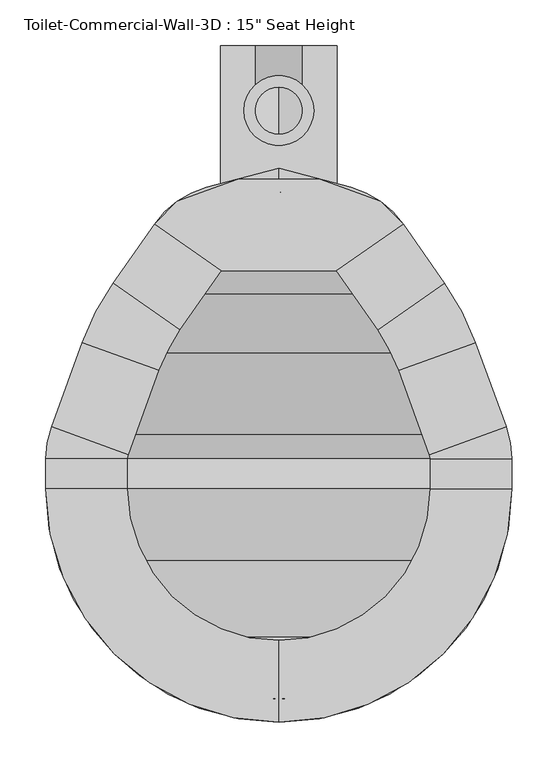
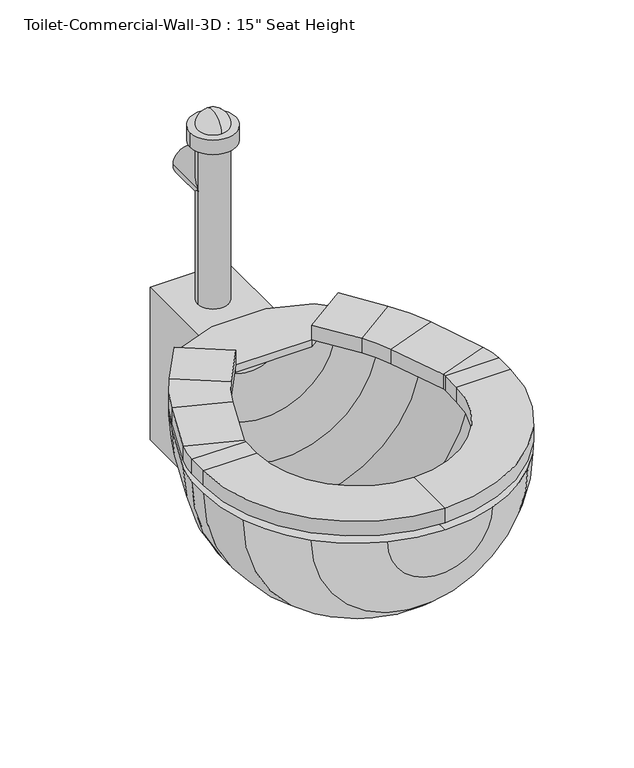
"""IFC4 building model written with IfcOpenShell, lengths in millimetres: flow terminal geometry."""

from ifc_helpers import new_model, si_unit, point, frame, frame_2d, origin, place, context, project, spatial, polyline, circle_curve, ellipse_curve, trimmed, segment, composite_curve, outline, extrude, source, transform, mapped, element, save
from ifc_brep_helpers import plane_surface, cylinder_surface, revolved_surface, advanced_brep


def flow_terminal_4365df9b(model_context):
    return source(origin(), model_context, "Body", "SolidModel", [
        extrude(outline(polyline([(467.7541169, -308.5347495), (342.0521907, -308.5347495), (269.229574, -257.5438043), (294.1800557, -232.5933226), (360.2423986, -208.5485961), (449.563909, -208.5485961), (515.6262519, -232.5933226), (540.5767337, -257.5438043), (467.7541169, -308.5347495)])), frame((0.0, 0.0, 342.9), z_axis=(0.0, 0.0, 1.0), x_axis=(1.0, 0.0, 0.0)), (0.0, 0.0, 1.0), 12.7),
        advanced_brep(
        [(467.7541169, -308.5347495, 355.6), (467.7541169, -308.5347495, 381.0), (540.5767337, -257.5438043, 381.0), (540.5767337, -257.5438043, 355.6), (585.6810159, -321.9593951, 355.6), (512.8583992, -372.9503403, 355.6), (585.6810159, -321.9593951, 381.0), (512.8583992, -372.9503403, 381.0), (619.360053, -386.6562234, 355.6), (535.821379, -417.0618141, 355.6), (619.360053, -386.6562234, 381.0), (535.821379, -417.0618141, 381.0), (652.7759241, -478.4655747, 355.6), (569.2372501, -508.8711654, 355.6), (652.7759241, -478.4655747, 381.0), (569.2372501, -508.8711654, 381.0), (658.9031538, -513.2148212, 355.6), (570.0031538, -513.2148212, 355.6), (658.9031538, -513.2148212, 381.0), (570.0031538, -513.2148212, 381.0), (658.9031538, -546.1, 355.6), (570.0031538, -546.1, 355.6), (658.9031538, -546.1, 381.0), (570.0031538, -546.1, 381.0), (404.9031538, -800.1, 355.6), (404.9031538, -711.2, 355.6), (404.9031538, -800.1, 381.0), (404.9031538, -711.2, 381.0), (150.9031538, -546.1, 355.6), (239.8031538, -546.1, 355.6), (150.9031538, -546.1, 381.0), (239.8031538, -546.1, 381.0), (150.9031538, -513.2148212, 355.6), (239.8031538, -513.2148212, 355.6), (150.9031538, -513.2148212, 381.0), (239.8031538, -513.2148212, 381.0), (157.0303835, -478.4655747, 355.6), (240.5690575, -508.8711654, 355.6), (157.0303835, -478.4655747, 381.0), (240.5690575, -508.8711654, 381.0), (190.4462546, -386.6562234, 355.6), (273.9849286, -417.0618141, 355.6), (190.4462546, -386.6562234, 381.0), (273.9849286, -417.0618141, 381.0), (224.1252917, -321.9593951, 355.6), (296.9479084, -372.9503403, 355.6), (224.1252917, -321.9593951, 381.0), (296.9479084, -372.9503403, 381.0), (342.0521907, -308.5347495, 355.6), (269.229574, -257.5438043, 355.6), (269.229574, -257.5438043, 381.0), (342.0521907, -308.5347495, 381.0)],
        [
            (0, 1),
            (1, 2),
            (2, 3),
            (3, 0),
            (3, 4),
            (4, 5),
            (5, 0),
            (2, 6),
            (6, 4),
            (1, 7),
            (7, 6),
            (5, 7),
            (8, 9),
            (9, 5, circle_curve(frame((356.8099347, -482.2166514, 355.6), z_axis=(0.0, 0.0, 1.0), x_axis=(0.81915204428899, 0.5735764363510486, 0.0)), 190.5)),
            (4, 8, circle_curve(frame((356.8099347, -482.2166514, 355.6), z_axis=(0.0, 0.0, -1.0), x_axis=(0.81915204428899, 0.5735764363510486, 0.0)), 279.4)),
            (10, 8),
            (6, 10, circle_curve(frame((356.8099347, -482.2166514, 381.0), z_axis=(0.0, 0.0, -1.0), x_axis=(0.81915204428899, 0.5735764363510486, 0.0)), 279.4)),
            (11, 10),
            (7, 11, circle_curve(frame((356.8099347, -482.2166514, 381.0), z_axis=(0.0, 0.0, -1.0), x_axis=(0.81915204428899, 0.5735764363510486, 0.0)), 190.5)),
            (9, 11),
            (8, 12),
            (12, 13),
            (13, 9),
            (10, 14),
            (14, 12),
            (11, 15),
            (15, 14),
            (13, 15),
            (16, 17),
            (17, 13, circle_curve(frame((557.3031538, -513.2148212, 355.6), z_axis=(0.0, 0.0, 1.0), x_axis=(0.9396926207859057, 0.3420201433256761, 0.0)), 12.7)),
            (12, 16, circle_curve(frame((557.3031538, -513.2148212, 355.6), z_axis=(0.0, 0.0, -1.0), x_axis=(0.9396926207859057, 0.3420201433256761, 0.0)), 101.6)),
            (18, 16),
            (14, 18, circle_curve(frame((557.3031538, -513.2148212, 381.0), z_axis=(0.0, 0.0, -1.0), x_axis=(0.9396926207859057, 0.3420201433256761, 0.0)), 101.6)),
            (19, 18),
            (15, 19, circle_curve(frame((557.3031538, -513.2148212, 381.0), z_axis=(0.0, 0.0, -1.0), x_axis=(0.9396926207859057, 0.3420201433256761, 0.0)), 12.7)),
            (17, 19),
            (16, 20),
            (20, 21),
            (21, 17),
            (18, 22),
            (22, 20),
            (19, 23),
            (23, 22),
            (21, 23),
            (24, 25),
            (25, 21, circle_curve(frame((404.9031538, -546.1, 355.6), z_axis=(0.0, 0.0, 1.0), x_axis=(1.0, 0.0, 0.0)), 165.1)),
            (20, 24, circle_curve(frame((404.9031538, -546.1, 355.6), z_axis=(0.0, 0.0, -1.0), x_axis=(1.0, 0.0, 0.0)), 254.0)),
            (26, 24),
            (22, 26, circle_curve(frame((404.9031538, -546.1, 381.0), z_axis=(0.0, 0.0, -1.0), x_axis=(1.0, 0.0, 0.0)), 254.0)),
            (27, 26),
            (23, 27, circle_curve(frame((404.9031538, -546.1, 381.0), z_axis=(0.0, 0.0, -1.0), x_axis=(1.0, 0.0, 0.0)), 165.1)),
            (25, 27),
            (28, 29),
            (29, 25, circle_curve(frame((404.9031538, -546.1, 355.6), z_axis=(0.0, 0.0, 1.0), x_axis=(0.0, -1.0, 0.0)), 165.1)),
            (24, 28, circle_curve(frame((404.9031538, -546.1, 355.6), z_axis=(0.0, 0.0, -1.0), x_axis=(0.0, -1.0, 0.0)), 254.0)),
            (30, 28),
            (26, 30, circle_curve(frame((404.9031538, -546.1, 381.0), z_axis=(0.0, 0.0, -1.0), x_axis=(0.0, -1.0, 0.0)), 254.0)),
            (31, 30),
            (27, 31, circle_curve(frame((404.9031538, -546.1, 381.0), z_axis=(0.0, 0.0, -1.0), x_axis=(0.0, -1.0, 0.0)), 165.1)),
            (29, 31),
            (28, 32),
            (32, 33),
            (33, 29),
            (30, 34),
            (34, 32),
            (31, 35),
            (35, 34),
            (33, 35),
            (36, 37),
            (37, 33, circle_curve(frame((252.5031538, -513.2148212, 355.6), z_axis=(0.0, 0.0, 1.0), x_axis=(-1.0, 0.0, 0.0)), 12.7)),
            (32, 36, circle_curve(frame((252.5031538, -513.2148212, 355.6), z_axis=(0.0, 0.0, -1.0), x_axis=(-1.0, 0.0, 0.0)), 101.6)),
            (38, 36),
            (34, 38, circle_curve(frame((252.5031538, -513.2148212, 381.0), z_axis=(0.0, 0.0, -1.0), x_axis=(-1.0, 0.0, 0.0)), 101.6)),
            (39, 38),
            (35, 39, circle_curve(frame((252.5031538, -513.2148212, 381.0), z_axis=(0.0, 0.0, -1.0), x_axis=(-1.0, 0.0, 0.0)), 12.7)),
            (37, 39),
            (36, 40),
            (40, 41),
            (41, 37),
            (38, 42),
            (42, 40),
            (39, 43),
            (43, 42),
            (41, 43),
            (44, 45),
            (45, 41, circle_curve(frame((452.9963729, -482.2166514, 355.6), z_axis=(0.0, 0.0, 1.0), x_axis=(-0.939692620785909, 0.3420201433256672, 0.0)), 190.5)),
            (40, 44, circle_curve(frame((452.9963729, -482.2166514, 355.6), z_axis=(0.0, 0.0, -1.0), x_axis=(-0.939692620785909, 0.3420201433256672, 0.0)), 279.4)),
            (46, 44),
            (42, 46, circle_curve(frame((452.9963729, -482.2166514, 381.0), z_axis=(0.0, 0.0, -1.0), x_axis=(-0.939692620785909, 0.3420201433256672, 0.0)), 279.4)),
            (47, 46),
            (43, 47, circle_curve(frame((452.9963729, -482.2166514, 381.0), z_axis=(0.0, 0.0, -1.0), x_axis=(-0.939692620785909, 0.3420201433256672, 0.0)), 190.5)),
            (45, 47),
            (48, 49),
            (49, 50),
            (50, 51),
            (51, 48),
            (44, 49),
            (48, 45),
            (46, 50),
            (47, 51),
        ],
        [
            plane_surface(frame((540.5767337, -257.5438043, 439.6203184), z_axis=(-0.5735764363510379, 0.8191520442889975, 0.0), x_axis=(0.8191520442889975, 0.5735764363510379, 0.0))),
            plane_surface(frame((467.7541169, -308.5347495, 355.6), z_axis=(0.0, 0.0, -1.0), x_axis=(0.5735764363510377, -0.8191520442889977, 0.0))),
            plane_surface(frame((540.5767337, -257.5438043, 355.6), z_axis=(0.8191520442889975, 0.5735764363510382, 0.0), x_axis=(0.5735764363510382, -0.8191520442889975, 0.0))),
            plane_surface(frame((540.5767337, -257.5438043, 381.0), z_axis=(0.0, 0.0, 1.0000000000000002), x_axis=(0.5735764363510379, -0.8191520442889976, 0.0))),
            plane_surface(frame((467.7541169, -308.5347495, 381.0), z_axis=(-0.819152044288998, -0.5735764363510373, 0.0), x_axis=(0.5735764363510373, -0.819152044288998, 0.0))),
            plane_surface(frame((356.8099347, -482.2166514, 355.6), z_axis=(0.0, 0.0, -1.0), x_axis=(0.81915204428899, 0.5735764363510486, 0.0))),
            cylinder_surface(frame((356.8099347, -482.2166514, 342.9), z_axis=(0.0, 0.0, 1.0), x_axis=(0.81915204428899, 0.5735764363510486, 0.0)), 279.4),
            plane_surface(frame((356.8099347, -482.2166514, 381.0), z_axis=(0.0, 0.0, 1.0), x_axis=(0.81915204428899, 0.5735764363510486, 0.0))),
            revolved_surface(polyline([(512.8583991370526, -372.9503402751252, 381.0), (512.8583991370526, -372.9503402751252, 355.6)]), (356.8099347, -482.2166514, 342.9), (0.0, 0.0, 1.0)),
            plane_surface(frame((535.821379, -417.0618141, 355.6), z_axis=(0.0, 0.0, -1.0), x_axis=(0.34202014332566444, -0.93969262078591, 0.0))),
            plane_surface(frame((619.360053, -386.6562234, 355.6), z_axis=(0.93969262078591, 0.3420201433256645, 0.0), x_axis=(0.3420201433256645, -0.93969262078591, 0.0))),
            plane_surface(frame((619.360053, -386.6562234, 381.0), z_axis=(0.0, 0.0, 1.0000000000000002), x_axis=(0.3420201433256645, -0.93969262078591, 0.0))),
            plane_surface(frame((535.821379, -417.0618141, 381.0), z_axis=(-0.9396926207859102, -0.3420201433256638, 0.0), x_axis=(0.3420201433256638, -0.9396926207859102, 0.0))),
            plane_surface(frame((557.3031538, -513.2148212, 355.6), z_axis=(0.0, 0.0, -1.0000000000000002), x_axis=(0.9396926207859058, 0.34202014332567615, 0.0))),
            cylinder_surface(frame((557.3031538, -513.2148212, 342.9), z_axis=(0.0, 0.0, 1.0), x_axis=(0.9396926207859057, 0.3420201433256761, 0.0)), 101.6),
            plane_surface(frame((557.3031538, -513.2148212, 381.0), z_axis=(0.0, 0.0, 1.0000000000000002), x_axis=(0.9396926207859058, 0.34202014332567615, 0.0))),
            revolved_surface(polyline([(569.237250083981, -508.87116537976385, 381.0), (569.237250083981, -508.87116537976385, 355.6)]), (557.3031538, -513.2148212, 342.9), (0.0, 0.0, 1.0)),
            plane_surface(frame((570.0031538, -513.2148212, 355.6), z_axis=(0.0, 0.0, -1.0), x_axis=(0.0, -1.0, 0.0))),
            plane_surface(frame((658.9031538, -513.2148212, 355.6), z_axis=(1.0, 0.0, 0.0), x_axis=(0.0, -1.0, 0.0))),
            plane_surface(frame((658.9031538, -513.2148212, 381.0), z_axis=(0.0, 0.0, 1.0), x_axis=(0.0, -1.0, 0.0))),
            plane_surface(frame((570.0031538, -513.2148212, 381.0), z_axis=(-1.0, 0.0, 0.0), x_axis=(0.0, -1.0, 0.0))),
            plane_surface(frame((404.9031538, -546.1, 355.6), z_axis=(0.0, 0.0, -1.0), x_axis=(1.0, 0.0, 0.0))),
            cylinder_surface(frame((404.9031538, -546.1, 342.9), z_axis=(0.0, 0.0, 1.0), x_axis=(1.0, 0.0, 0.0)), 254.0),
            plane_surface(frame((404.9031538, -546.1, 381.0), z_axis=(0.0, 0.0, 1.0), x_axis=(1.0, 0.0, 0.0))),
            revolved_surface(polyline([(570.0031538, -546.1, 381.0), (570.0031538, -546.1, 355.6)]), (404.9031538, -546.1, 342.9), (0.0, 0.0, 1.0)),
            plane_surface(frame((404.9031538, -546.1, 355.6), z_axis=(0.0, 0.0, -1.0), x_axis=(0.0, -1.0, 0.0))),
            cylinder_surface(frame((404.9031538, -546.1, 342.9), z_axis=(0.0, 0.0, 1.0), x_axis=(0.0, -1.0, 0.0)), 254.0),
            plane_surface(frame((404.9031538, -546.1, 381.0), z_axis=(0.0, 0.0, 1.0), x_axis=(0.0, -1.0, 0.0))),
            revolved_surface(polyline([(404.9031538, -711.2, 381.0), (404.9031538, -711.2, 355.6)]), (404.9031538, -546.1, 342.9), (0.0, 0.0, 1.0)),
            plane_surface(frame((239.8031538, -546.1, 355.6), z_axis=(0.0, 0.0, -1.0), x_axis=(0.0, 1.0, 0.0))),
            plane_surface(frame((150.9031538, -546.1, 355.6), z_axis=(-1.0, 0.0, 0.0), x_axis=(0.0, 1.0, 0.0))),
            plane_surface(frame((150.9031538, -546.1, 381.0), z_axis=(0.0, 0.0, 1.0), x_axis=(0.0, 1.0, 0.0))),
            plane_surface(frame((239.8031538, -546.1, 381.0), z_axis=(1.0, 0.0, 0.0), x_axis=(0.0, 1.0, 0.0))),
            plane_surface(frame((252.5031538, -513.2148212, 355.6), z_axis=(0.0, 0.0, -1.0), x_axis=(-1.0, 0.0, 0.0))),
            cylinder_surface(frame((252.5031538, -513.2148212, 342.9), z_axis=(0.0, 0.0, 1.0), x_axis=(-1.0, 0.0, 0.0)), 101.6),
            plane_surface(frame((252.5031538, -513.2148212, 381.0), z_axis=(0.0, 0.0, 1.0), x_axis=(-1.0, 0.0, 0.0))),
            revolved_surface(polyline([(239.80315380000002, -513.2148212, 381.0), (239.80315380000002, -513.2148212, 355.6)]), (252.5031538, -513.2148212, 342.9), (0.0, 0.0, 1.0)),
            plane_surface(frame((240.5690575, -508.8711654, 355.6), z_axis=(0.0, 0.0, -1.0000000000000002), x_axis=(0.3420201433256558, 0.9396926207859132, 0.0))),
            plane_surface(frame((157.0303835, -478.4655747, 355.6), z_axis=(-0.9396926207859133, 0.34202014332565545, 0.0), x_axis=(0.34202014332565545, 0.9396926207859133, 0.0))),
            plane_surface(frame((157.0303835, -478.4655747, 381.0), z_axis=(0.0, 0.0, 1.0000000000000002), x_axis=(0.34202014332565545, 0.9396926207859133, 0.0))),
            plane_surface(frame((240.5690575, -508.8711654, 381.0), z_axis=(0.9396926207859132, -0.3420201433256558, 0.0), x_axis=(0.3420201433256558, 0.9396926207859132, 0.0))),
            plane_surface(frame((452.9963729, -482.2166514, 355.6), z_axis=(0.0, 0.0, -1.0), x_axis=(-0.939692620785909, 0.3420201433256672, 0.0))),
            cylinder_surface(frame((452.9963729, -482.2166514, 342.9), z_axis=(0.0, 0.0, 1.0), x_axis=(-0.939692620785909, 0.3420201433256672, 0.0)), 279.4),
            plane_surface(frame((452.9963729, -482.2166514, 381.0), z_axis=(0.0, 0.0, 1.0), x_axis=(-0.939692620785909, 0.3420201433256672, 0.0))),
            revolved_surface(polyline([(273.98492864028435, -417.06181409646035, 381.0), (273.98492864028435, -417.06181409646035, 355.6)]), (452.9963729, -482.2166514, 342.9), (0.0, 0.0, 1.0)),
            plane_surface(frame((269.229574, -257.5438043, 246.1796816), z_axis=(0.5735764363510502, 0.8191520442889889, 0.0), x_axis=(0.8191520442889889, -0.5735764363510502, 0.0))),
            plane_surface(frame((296.9479084, -372.9503403, 355.6), z_axis=(0.0, 0.0, -1.0), x_axis=(0.5735764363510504, 0.8191520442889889, 0.0))),
            plane_surface(frame((224.1252917, -321.9593951, 355.6), z_axis=(-0.819152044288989, 0.57357643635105, 0.0), x_axis=(0.57357643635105, 0.819152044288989, 0.0))),
            plane_surface(frame((224.1252917, -321.9593951, 381.0), z_axis=(0.0, 0.0, 1.0), x_axis=(0.5735764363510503, 0.8191520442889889, 0.0))),
            plane_surface(frame((296.9479084, -372.9503403, 381.0), z_axis=(0.8191520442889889, -0.5735764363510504, 0.0), x_axis=(0.5735764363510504, 0.8191520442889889, 0.0))),
        ],
        [
            (0, [[1, 2, 3, 4]]),
            (1, [[5, 6, 7, -4]]),
            (2, [[8, 9, -5, -3]]),
            (3, [[10, 11, -8, -2]]),
            (4, [[-7, 12, -10, -1]]),
            (5, [[13, 14, -6, 15]]),
            (6, [[16, -15, -9, 17]]),
            (7, [[18, -17, -11, 19]]),
            (8, [[20, -19, -12, -14]]),
            (9, [[21, 22, 23, -13]]),
            (10, [[24, 25, -21, -16]]),
            (11, [[26, 27, -24, -18]]),
            (12, [[-23, 28, -26, -20]]),
            (13, [[29, 30, -22, 31]]),
            (14, [[32, -31, -25, 33]]),
            (15, [[34, -33, -27, 35]]),
            (16, [[36, -35, -28, -30]]),
            (17, [[37, 38, 39, -29]]),
            (18, [[40, 41, -37, -32]]),
            (19, [[42, 43, -40, -34]]),
            (20, [[-39, 44, -42, -36]]),
            (21, [[45, 46, -38, 47]]),
            (22, [[48, -47, -41, 49]]),
            (23, [[50, -49, -43, 51]]),
            (24, [[52, -51, -44, -46]]),
            (25, [[53, 54, -45, 55]]),
            (26, [[56, -55, -48, 57]]),
            (27, [[58, -57, -50, 59]]),
            (28, [[60, -59, -52, -54]]),
            (29, [[61, 62, 63, -53]]),
            (30, [[64, 65, -61, -56]]),
            (31, [[66, 67, -64, -58]]),
            (32, [[-63, 68, -66, -60]]),
            (33, [[69, 70, -62, 71]]),
            (34, [[72, -71, -65, 73]]),
            (35, [[74, -73, -67, 75]]),
            (36, [[76, -75, -68, -70]]),
            (37, [[77, 78, 79, -69]]),
            (38, [[80, 81, -77, -72]]),
            (39, [[82, 83, -80, -74]]),
            (40, [[-79, 84, -82, -76]]),
            (41, [[85, 86, -78, 87]]),
            (42, [[88, -87, -81, 89]]),
            (43, [[90, -89, -83, 91]]),
            (44, [[92, -91, -84, -86]]),
            (45, [[93, 94, 95, 96]]),
            (46, [[97, -93, 98, -85]]),
            (47, [[99, -94, -97, -88]]),
            (48, [[100, -95, -99, -90]]),
            (49, [[-98, -96, -100, -92]]),
        ],
    ),
        advanced_brep(
        [(491.7762702, -784.7819257, 342.9), (584.5082762, -725.7051224, 342.9), (643.5850795, -632.9731164, 342.9), (658.9031538, -546.1, 342.9), (658.9031538, -513.2148212, 342.9), (652.7759241, -478.4655747, 342.9), (619.360053, -386.6562234, 342.9), (585.6810159, -321.9593951, 342.9), (540.5767337, -257.5438043, 342.9), (483.6469009, -217.6811063, 342.9), (404.9031538, -196.5817829, 342.9), (404.9031538, -222.8777978, 342.9), (468.1430637, -239.8228806, 342.9), (525.0728964, -279.6855786, 342.9), (562.9565296, -333.7890139, 342.9), (596.6355667, -398.4858422, 342.9), (628.9077315, -487.1528863, 342.9), (633.5031538, -513.2148212, 342.9), (633.5031538, -546.1, 342.9), (619.7168869, -624.2858048, 342.9), (566.547764, -707.7446102, 342.9), (483.0889586, -760.9137331, 342.9), (404.9031538, -774.7, 342.9), (404.9031538, -800.1, 342.9), (318.0300374, -784.7819257, 342.9), (326.7173491, -760.9137331, 342.9), (243.2585436, -707.7446102, 342.9), (190.0894207, -624.2858048, 342.9), (176.3031538, -546.1, 342.9), (176.3031538, -513.2148212, 342.9), (180.8985761, -487.1528863, 342.9), (213.1707409, -398.4858422, 342.9), (246.849778, -333.7890139, 342.9), (284.7334112, -279.6855786, 342.9), (341.663244, -239.8228806, 342.9), (326.1594067, -217.6811063, 342.9), (269.229574, -257.5438043, 342.9), (224.1252917, -321.9593951, 342.9), (190.4462546, -386.6562234, 342.9), (157.0303835, -478.4655747, 342.9), (150.9031538, -513.2148212, 342.9), (150.9031538, -546.1, 342.9), (166.2212281, -632.9731164, 342.9), (225.2980314, -725.7051224, 342.9)],
        [
            (0, 1, circle_curve(frame((404.9031538, -546.1, 342.9), z_axis=(0.0, 0.0, 1.0), x_axis=(1.0, 0.0, 0.0)), 254.0)),
            (1, 2, circle_curve(frame((404.9031538, -546.1, 342.9), z_axis=(0.0, 0.0, 1.0), x_axis=(1.0, 0.0, 0.0)), 254.0)),
            (2, 3, circle_curve(frame((404.9031538, -546.1, 342.9), z_axis=(0.0, 0.0, 1.0), x_axis=(1.0, 0.0, 0.0)), 254.0)),
            (3, 4),
            (4, 5, circle_curve(frame((557.3031538, -513.2148212, 342.9), z_axis=(0.0, 0.0, 1.0), x_axis=(1.0, 0.0, 0.0)), 101.6)),
            (5, 6),
            (6, 7, circle_curve(frame((356.8099347, -482.2166514, 342.9), z_axis=(0.0, 0.0, 1.0), x_axis=(1.0, 0.0, 0.0)), 279.4)),
            (7, 8),
            (8, 9, circle_curve(frame((457.350886, -315.8191703, 342.9), z_axis=(0.0, 0.0, 1.0), x_axis=(1.0, 0.0, 0.0)), 101.6)),
            (9, 10),
            (10, 11),
            (11, 12),
            (12, 13, circle_curve(frame((441.8470487, -337.9609446, 342.9), z_axis=(0.0, 0.0, -1.0), x_axis=(1.0, 0.0, 0.0)), 101.6)),
            (13, 14),
            (14, 15, circle_curve(frame((334.0854485, -494.0462703, 342.9), z_axis=(0.0, 0.0, -1.0), x_axis=(1.0, 0.0, 0.0)), 279.4)),
            (15, 16),
            (16, 17, circle_curve(frame((557.3031538, -513.2148212, 342.9), z_axis=(0.0, 0.0, -1.0), x_axis=(1.0, 0.0, 0.0)), 76.2)),
            (17, 18),
            (18, 19, circle_curve(frame((404.9031538, -546.1, 342.9), z_axis=(0.0, 0.0, -1.0), x_axis=(1.0, 0.0, 0.0)), 228.6)),
            (19, 20, circle_curve(frame((404.9031538, -546.1, 342.9), z_axis=(0.0, 0.0, -1.0), x_axis=(1.0, 0.0, 0.0)), 228.6)),
            (20, 21, circle_curve(frame((404.9031538, -546.1, 342.9), z_axis=(0.0, 0.0, -1.0), x_axis=(1.0, 0.0, 0.0)), 228.6)),
            (21, 22, circle_curve(frame((404.9031538, -546.1, 342.9), z_axis=(0.0, 0.0, -1.0), x_axis=(1.0, 0.0, 0.0)), 228.6)),
            (22, 23),
            (23, 0, circle_curve(frame((404.9031538, -546.1, 342.9), z_axis=(0.0, 0.0, 1.0), x_axis=(1.0, 0.0, 0.0)), 254.0)),
            (24, 23, circle_curve(frame((404.9031538, -546.1, 342.9), z_axis=(0.0, 0.0, 1.0), x_axis=(-1.0, 0.0, 0.0)), 254.0)),
            (22, 25, circle_curve(frame((404.9031538, -546.1, 342.9), z_axis=(0.0, 0.0, -1.0), x_axis=(-1.0, 0.0, 0.0)), 228.6)),
            (25, 26, circle_curve(frame((404.9031538, -546.1, 342.9), z_axis=(0.0, 0.0, -1.0), x_axis=(-1.0, 0.0, 0.0)), 228.6)),
            (26, 27, circle_curve(frame((404.9031538, -546.1, 342.9), z_axis=(0.0, 0.0, -1.0), x_axis=(-1.0, 0.0, 0.0)), 228.6)),
            (27, 28, circle_curve(frame((404.9031538, -546.1, 342.9), z_axis=(0.0, 0.0, -1.0), x_axis=(-1.0, 0.0, 0.0)), 228.6)),
            (28, 29),
            (29, 30, circle_curve(frame((252.5031538, -513.2148212, 342.9), z_axis=(0.0, 0.0, -1.0), x_axis=(-1.0, 0.0, 0.0)), 76.2)),
            (30, 31),
            (31, 32, circle_curve(frame((475.7208592, -494.0462703, 342.9), z_axis=(0.0, 0.0, -1.0), x_axis=(-1.0, 0.0, 0.0)), 279.4)),
            (32, 33),
            (33, 34, circle_curve(frame((367.9592589, -337.9609446, 342.9), z_axis=(0.0, 0.0, -1.0), x_axis=(-1.0, 0.0, 0.0)), 101.6)),
            (34, 11),
            (10, 35),
            (35, 36, circle_curve(frame((352.4554217, -315.8191703, 342.9), z_axis=(0.0, 0.0, 1.0), x_axis=(-1.0, 0.0, 0.0)), 101.6)),
            (36, 37),
            (37, 38, circle_curve(frame((452.9963729, -482.2166514, 342.9), z_axis=(0.0, 0.0, 1.0), x_axis=(-1.0, 0.0, 0.0)), 279.4)),
            (38, 39),
            (39, 40, circle_curve(frame((252.5031538, -513.2148212, 342.9), z_axis=(0.0, 0.0, 1.0), x_axis=(-1.0, 0.0, 0.0)), 101.6)),
            (40, 41),
            (41, 42, circle_curve(frame((404.9031538, -546.1, 342.9), z_axis=(0.0, 0.0, 1.0), x_axis=(-1.0, 0.0, 0.0)), 254.0)),
            (42, 43, circle_curve(frame((404.9031538, -546.1, 342.9), z_axis=(0.0, 0.0, 1.0), x_axis=(-1.0, 0.0, 0.0)), 254.0)),
            (43, 24, circle_curve(frame((404.9031538, -546.1, 342.9), z_axis=(0.0, 0.0, 1.0), x_axis=(-1.0, 0.0, 0.0)), 254.0)),
            (24, 0, circle_curve(frame((404.9031538, -784.7819257, 342.9), z_axis=(0.0, -1.0, 0.0), x_axis=(1.0, 0.0, 0.0)), 86.8731164)),
            (21, 25, circle_curve(frame((404.9031538, -760.9137331, 342.9), z_axis=(0.0, 1.0, 0.0), x_axis=(1.0, 0.0, 0.0)), 78.1858048)),
            (20, 26, circle_curve(frame((404.9031538, -707.7446102, 342.9), z_axis=(0.0, 1.0, 0.0), x_axis=(1.0, 0.0, 0.0)), 161.6446102)),
            (19, 27, circle_curve(frame((404.9031538, -624.2858048, 342.9), z_axis=(0.0, 1.0, 0.0), x_axis=(1.0, 0.0, 0.0)), 214.8137331)),
            (18, 28, circle_curve(frame((404.9031538, -546.1, 342.9), z_axis=(0.0, 1.0, 0.0), x_axis=(1.0, 0.0, 0.0)), 228.6)),
            (17, 29, circle_curve(frame((404.9031538, -513.2148212, 342.9), z_axis=(0.0, 1.0, 0.0), x_axis=(1.0, 0.0, 0.0)), 228.6)),
            (16, 30, circle_curve(frame((404.9031538, -487.1528863, 342.9), z_axis=(0.0, 1.0, 0.0), x_axis=(1.0, 0.0, 0.0)), 224.0045777)),
            (15, 31, circle_curve(frame((404.9031538, -398.4858422, 342.9), z_axis=(0.0, 1.0, 0.0), x_axis=(1.0, 0.0, 0.0)), 191.7324129)),
            (14, 32, circle_curve(frame((404.9031538, -333.7890139, 342.9), z_axis=(0.0, 1.0, 0.0), x_axis=(1.0, 0.0, 0.0)), 158.0533758)),
            (13, 33, circle_curve(frame((404.9031538, -279.6855786, 342.9), z_axis=(0.0, 1.0, 0.0), x_axis=(1.0, 0.0, 0.0)), 120.1697426)),
            (12, 34, circle_curve(frame((404.9031538, -239.8228806, 342.9), z_axis=(0.0, 1.0, 0.0), x_axis=(1.0, 0.0, 0.0)), 63.2399099)),
            (9, 35, circle_curve(frame((404.9031538, -217.6811063, 342.9), z_axis=(0.0, 1.0, 0.0), x_axis=(1.0, 0.0, 0.0)), 78.7437471)),
            (8, 36, circle_curve(frame((404.9031538, -257.5438043, 342.9), z_axis=(0.0, 1.0, 0.0), x_axis=(1.0, 0.0, 0.0)), 135.6735798)),
            (7, 37, circle_curve(frame((404.9031538, -321.9593951, 342.9), z_axis=(0.0, 1.0, 0.0), x_axis=(1.0, 0.0, 0.0)), 180.7778621)),
            (6, 38, circle_curve(frame((404.9031538, -386.6562234, 342.9), z_axis=(0.0, 1.0, 0.0), x_axis=(1.0, 0.0, 0.0)), 214.4568992)),
            (5, 39, circle_curve(frame((404.9031538, -478.4655747, 342.9), z_axis=(0.0, 1.0, 0.0), x_axis=(1.0, 0.0, 0.0)), 247.8727703)),
            (4, 40, circle_curve(frame((404.9031538, -513.2148212, 342.9), z_axis=(0.0, 1.0, 0.0), x_axis=(1.0, 0.0, 0.0)), 254.0)),
            (3, 41, circle_curve(frame((404.9031538, -546.1, 342.9), z_axis=(0.0, 1.0, 0.0), x_axis=(1.0, 0.0, 0.0)), 254.0)),
            (2, 42, circle_curve(frame((404.9031538, -632.9731164, 342.9), z_axis=(0.0, 1.0, 0.0), x_axis=(1.0, 0.0, 0.0)), 238.6819257)),
            (1, 43, circle_curve(frame((404.9031538, -725.7051224, 342.9), z_axis=(0.0, 1.0, 0.0), x_axis=(1.0, 0.0, 0.0)), 179.6051224)),
        ],
        [
            plane_surface(frame((404.9031538, -905.3102448, 342.9), z_axis=(0.0, 0.0, 1.0), x_axis=(1.0, 0.0, 0.0))),
            plane_surface(frame((404.9031538, -905.3102448, 342.9), z_axis=(0.0, 0.0, 1.0), x_axis=(-1.0, 0.0, 0.0))),
            revolved_surface(trimmed(ellipse_curve(frame((404.9031538, -546.1, 342.9), z_axis=(0.0, 0.0, -1.0), x_axis=(1.0, 0.0, 0.0)), 254.0, 254.0), [point((491.7762702, -784.7819257, 342.9))], [point((404.9031538, -800.1, 342.9))], True, "CARTESIAN"), (404.9031538, -905.3102448, 342.9), (0.0, -1.0, 0.0)),
            revolved_surface(trimmed(ellipse_curve(frame((404.9031538, -546.1, 342.9), z_axis=(0.0, 0.0, 1.0), x_axis=(1.0, 0.0, 0.0)), 228.6, 228.6), [point((404.9031538, -774.7, 342.9))], [point((483.0889586, -760.9137331, 342.9))], True, "CARTESIAN"), (404.9031538, -905.3102448, 342.9), (0.0, -1.0, 0.0)),
            revolved_surface(trimmed(ellipse_curve(frame((404.9031538, -546.1, 342.9), z_axis=(0.0, 0.0, 1.0), x_axis=(1.0, 0.0, 0.0)), 228.6, 228.6), [point((483.0889586, -760.9137331, 342.9))], [point((566.547764, -707.7446102, 342.9))], True, "CARTESIAN"), (404.9031538, -905.3102448, 342.9), (0.0, -1.0, 0.0)),
            revolved_surface(trimmed(ellipse_curve(frame((404.9031538, -546.1, 342.9), z_axis=(0.0, 0.0, 1.0), x_axis=(1.0, 0.0, 0.0)), 228.6, 228.6), [point((566.547764, -707.7446102, 342.9))], [point((619.7168869, -624.2858048, 342.9))], True, "CARTESIAN"), (404.9031538, -905.3102448, 342.9), (0.0, -1.0, 0.0)),
            revolved_surface(trimmed(ellipse_curve(frame((404.9031538, -546.1, 342.9), z_axis=(0.0, 0.0, 1.0), x_axis=(1.0, 0.0, 0.0)), 228.6, 228.6), [point((619.7168869, -624.2858048, 342.9))], [point((633.5031538, -546.1, 342.9))], True, "CARTESIAN"), (404.9031538, -905.3102448, 342.9), (0.0, -1.0, 0.0)),
            revolved_surface(polyline([(633.5031538, -546.1, 342.9), (633.5031538, -513.2148212, 342.9)]), (404.9031538, -905.3102448, 342.9), (0.0, -1.0, 0.0)),
            revolved_surface(trimmed(ellipse_curve(frame((557.3031538, -513.2148212, 342.9), z_axis=(0.0, 0.0, 1.0), x_axis=(1.0, 0.0, 0.0)), 76.2, 76.2), [point((633.5031538, -513.2148212, 342.9))], [point((628.9077315, -487.1528863, 342.9))], True, "CARTESIAN"), (404.9031538, -905.3102448, 342.9), (0.0, -1.0, 0.0)),
            revolved_surface(polyline([(628.9077315, -487.1528863, 342.9), (596.6355667, -398.4858422, 342.9)]), (404.9031538, -905.3102448, 342.9), (0.0, -1.0, 0.0)),
            revolved_surface(trimmed(ellipse_curve(frame((334.0854485, -494.0462703, 342.9), z_axis=(0.0, 0.0, 1.0), x_axis=(1.0, 0.0, 0.0)), 279.4, 279.4), [point((596.6355667, -398.4858422, 342.9))], [point((562.9565296, -333.7890139, 342.9))], True, "CARTESIAN"), (404.9031538, -905.3102448, 342.9), (0.0, -1.0, 0.0)),
            revolved_surface(polyline([(562.9565296, -333.7890139, 342.9), (525.0728964, -279.6855786, 342.9)]), (404.9031538, -905.3102448, 342.9), (0.0, -1.0, 0.0)),
            revolved_surface(trimmed(ellipse_curve(frame((441.8470487, -337.9609446, 342.9), z_axis=(0.0, 0.0, 1.0), x_axis=(1.0, 0.0, 0.0)), 101.6, 101.6), [point((525.0728964, -279.6855786, 342.9))], [point((468.1430637, -239.8228806, 342.9))], True, "CARTESIAN"), (404.9031538, -905.3102448, 342.9), (0.0, -1.0, 0.0)),
            revolved_surface(polyline([(468.1430637, -239.8228806, 342.9), (404.9031538, -222.8777978, 342.9)]), (404.9031538, -905.3102448, 342.9), (0.0, -1.0, 0.0)),
            revolved_surface(polyline([(404.9031538, -196.5817829, 342.9), (483.6469009, -217.6811063, 342.9)]), (404.9031538, -905.3102448, 342.9), (0.0, -1.0, 0.0)),
            revolved_surface(trimmed(ellipse_curve(frame((457.350886, -315.8191703, 342.9), z_axis=(0.0, 0.0, -1.0), x_axis=(1.0, 0.0, 0.0)), 101.6, 101.6), [point((483.6469009, -217.6811063, 342.9))], [point((540.5767337, -257.5438043, 342.9))], True, "CARTESIAN"), (404.9031538, -905.3102448, 342.9), (0.0, -1.0, 0.0)),
            revolved_surface(polyline([(540.5767337, -257.5438043, 342.9), (585.6810159, -321.9593951, 342.9)]), (404.9031538, -905.3102448, 342.9), (0.0, -1.0, 0.0)),
            revolved_surface(trimmed(ellipse_curve(frame((356.8099347, -482.2166514, 342.9), z_axis=(0.0, 0.0, -1.0), x_axis=(1.0, 0.0, 0.0)), 279.4, 279.4), [point((585.6810159, -321.9593951, 342.9))], [point((619.360053, -386.6562234, 342.9))], True, "CARTESIAN"), (404.9031538, -905.3102448, 342.9), (0.0, -1.0, 0.0)),
            revolved_surface(polyline([(619.360053, -386.6562234, 342.9), (652.7759241, -478.4655747, 342.9)]), (404.9031538, -905.3102448, 342.9), (0.0, -1.0, 0.0)),
            revolved_surface(trimmed(ellipse_curve(frame((557.3031538, -513.2148212, 342.9), z_axis=(0.0, 0.0, -1.0), x_axis=(1.0, 0.0, 0.0)), 101.6, 101.6), [point((652.7759241, -478.4655747, 342.9))], [point((658.9031538, -513.2148212, 342.9))], True, "CARTESIAN"), (404.9031538, -905.3102448, 342.9), (0.0, -1.0, 0.0)),
            cylinder_surface(frame((404.9031538, -905.3102448, 342.9), z_axis=(0.0, -1.0, 0.0), x_axis=(1.0, 0.0, 0.0)), 254.0),
            revolved_surface(trimmed(ellipse_curve(frame((404.9031538, -546.1, 342.9), z_axis=(0.0, 0.0, -1.0), x_axis=(1.0, 0.0, 0.0)), 254.0, 254.0), [point((658.9031538, -546.1, 342.9))], [point((643.5850795, -632.9731164, 342.9))], True, "CARTESIAN"), (404.9031538, -905.3102448, 342.9), (0.0, -1.0, 0.0)),
            revolved_surface(trimmed(ellipse_curve(frame((404.9031538, -546.1, 342.9), z_axis=(0.0, 0.0, -1.0), x_axis=(1.0, 0.0, 0.0)), 254.0, 254.0), [point((643.5850795, -632.9731164, 342.9))], [point((584.5082762, -725.7051224, 342.9))], True, "CARTESIAN"), (404.9031538, -905.3102448, 342.9), (0.0, -1.0, 0.0)),
            revolved_surface(trimmed(ellipse_curve(frame((404.9031538, -546.1, 342.9), z_axis=(0.0, 0.0, -1.0), x_axis=(1.0, 0.0, 0.0)), 254.0, 254.0), [point((584.5082762, -725.7051224, 342.9))], [point((491.7762702, -784.7819257, 342.9))], True, "CARTESIAN"), (404.9031538, -905.3102448, 342.9), (0.0, -1.0, 0.0)),
        ],
        [
            (0, [[1, 2, 3, 4, 5, 6, 7, 8, 9, 10, 11, 12, 13, 14, 15, 16, 17, 18, 19, 20, 21, 22, 23, 24]]),
            (1, [[25, -23, 26, 27, 28, 29, 30, 31, 32, 33, 34, 35, 36, -11, 37, 38, 39, 40, 41, 42, 43, 44, 45, 46]]),
            (2, [[-25, 47, -24]]),
            (3, [[-26, -22, 48]]),
            (4, [[-27, -48, -21, 49]]),
            (5, [[-28, -49, -20, 50]]),
            (6, [[-29, -50, -19, 51]]),
            (7, [[-30, -51, -18, 52]]),
            (8, [[-31, -52, -17, 53]]),
            (9, [[-32, -53, -16, 54]]),
            (10, [[-33, -54, -15, 55]]),
            (11, [[-34, -55, -14, 56]]),
            (12, [[-35, -56, -13, 57]]),
            (13, [[-36, -57, -12]]),
            (14, [[-37, -10, 58]]),
            (15, [[-38, -58, -9, 59]]),
            (16, [[-39, -59, -8, 60]]),
            (17, [[-40, -60, -7, 61]]),
            (18, [[-41, -61, -6, 62]]),
            (19, [[-42, -62, -5, 63]]),
            (20, [[-43, -63, -4, 64]]),
            (21, [[-44, -64, -3, 65]]),
            (22, [[-45, -65, -2, 66]]),
            (23, [[-46, -66, -1, -47]]),
        ],
    ),
        advanced_brep(
        [(404.9031538, -108.4176912, 647.7), (404.9031538, -134.0352737, 673.3175826), (404.9031538, -159.6528563, 647.7), (404.9031538, -134.0352737, 647.7)],
        [
            (0, 1, circle_curve(frame((404.9031538, -134.0352737, 647.7), z_axis=(1.0, 0.0, 0.0), x_axis=(0.0, -1.0, 0.0)), 25.6175826)),
            (1, 2, circle_curve(frame((404.9031538, -134.0352737, 647.7), z_axis=(1.0, 0.0, 0.0), x_axis=(0.0, 1.0, 0.0)), 25.6175826)),
            (2, 0, circle_curve(frame((404.9031538, -134.0352737, 647.7), z_axis=(0.0, 0.0, 1.0), x_axis=(0.0, -1.0, 0.0)), 25.6175826)),
            (0, 2, circle_curve(frame((404.9031538, -134.0352737, 647.7), z_axis=(0.0, 0.0, 1.0), x_axis=(0.0, -1.0, 0.0)), 25.6175826)),
            (3, 0),
            (2, 3),
        ],
        [
            revolved_surface(trimmed(ellipse_curve(frame((404.9031538, -134.0352737, 647.7), z_axis=(1.0, 0.0, 0.0), x_axis=(0.0, 1.0, 0.0)), 25.6175826, 25.6175826), [point((404.9031538, -134.0352737, 673.3175826))], [point((404.9031538, -159.6528563, 647.7))], True, "CARTESIAN"), (404.9031538, -134.0352737, 712.3277273), (0.0, 0.0, -1.0)),
            plane_surface(frame((404.9031538, -134.0352737, 647.7), z_axis=(0.0, 0.0, -1.0), x_axis=(0.0, -1.0, 0.0))),
        ],
        [
            (0, [[1, 2, 3]]),
            (0, [[-2, -1, 4]]),
            (1, [[5, -3, 6]]),
            (1, [[-6, -4, -5]]),
        ],
    ),
        extrude(outline(composite_curve([segment(trimmed(circle_curve(frame_2d((404.9031538, -134.0352737)), 38.1), [point((366.8031538, -134.0352737))], [point((443.0031538, -134.0352737))], False, "CARTESIAN"), True, "CONTINUOUS"), segment(trimmed(circle_curve(frame_2d((404.9031538, -134.0352737)), 38.1), [point((443.0031538, -134.0352737))], [point((366.8031538, -134.0352737))], False, "CARTESIAN"), True, "CONTINUOUS")], self_intersect=False)), frame((0.0, 0.0, 622.3), z_axis=(0.0, 0.0, 1.0), x_axis=(1.0, 0.0, 0.0)), (0.0, 0.0, 1.0), 25.4),
        extrude(outline(composite_curve([segment(trimmed(circle_curve(frame_2d((544.2113641, 404.9031538)), 25.4), [point((544.2113641, 379.5031538))], [point((544.2113641, 430.3031538))], False, "CARTESIAN"), True, "CONTINUOUS"), segment(trimmed(circle_curve(frame_2d((544.2113641, 404.9031538)), 25.4), [point((544.2113641, 430.3031538))], [point((544.2113641, 379.5031538))], False, "CARTESIAN"), True, "CONTINUOUS")], self_intersect=False)), frame((0.0, -134.14375, 0.0), z_axis=(0.0, 1.0, 0.0), x_axis=(0.0, 0.0, 1.0)), (0.0, 0.0, 1.0), 70.64375),
        extrude(outline(composite_curve([segment(trimmed(circle_curve(frame_2d((404.9031538, -134.0352737)), 25.4), [point((379.5031538, -134.0352737))], [point((430.3031538, -134.0352737))], False, "CARTESIAN"), True, "CONTINUOUS"), segment(trimmed(circle_curve(frame_2d((404.9031538, -134.0352737)), 25.4), [point((430.3031538, -134.0352737))], [point((379.5031538, -134.0352737))], False, "CARTESIAN"), True, "CONTINUOUS")], self_intersect=False)), frame((0.0, 0.0, 342.9), z_axis=(0.0, 0.0, 1.0), x_axis=(1.0, 0.0, 0.0)), (0.0, 0.0, 1.0), 279.4),
        extrude(outline(polyline([(-216.3037941, 342.9), (-63.5, 342.9), (-63.5, 76.2), (-283.5454017, 76.2), (-364.0426282, 134.0328588), (-260.0103185, 206.8770663), (-216.3037941, 269.296452), (-216.3037941, 342.9)])), frame((341.4031538, 0.0, 0.0), z_axis=(1.0, 0.0, 0.0), x_axis=(0.0, 1.0, 0.0)), (0.0, 0.0, 1.0), 127.0),
    ])


if __name__ == "__main__":
    model = new_model("IFC4")
    model_context = context("Model", 3, world=origin())
    ifc_project = project(units=[si_unit("LENGTHUNIT", "METRE", prefix="MILLI")], contexts=[model_context])
    site = spatial("IfcSite", under=ifc_project)
    building = spatial("IfcBuilding", under=site)
    placement = place(None, origin())
    flow_terminal_shape = flow_terminal_4365df9b(model_context)
    element("IfcFlowTerminal", 1, ObjectType="Toilet-Commercial-Wall-3D : 15\" Seat Height", at=placement, inside=building, context=model_context, shape_type="MappedRepresentation", body=[
        mapped(flow_terminal_shape, transform((0.0, 0.0, 0.0), x_axis=(1.0, 0.0, 0.0), y_axis=(0.0, 1.0, 0.0), z_axis=(0.0, 0.0, 1.0))),
    ])
    save(model, "model.ifc")
